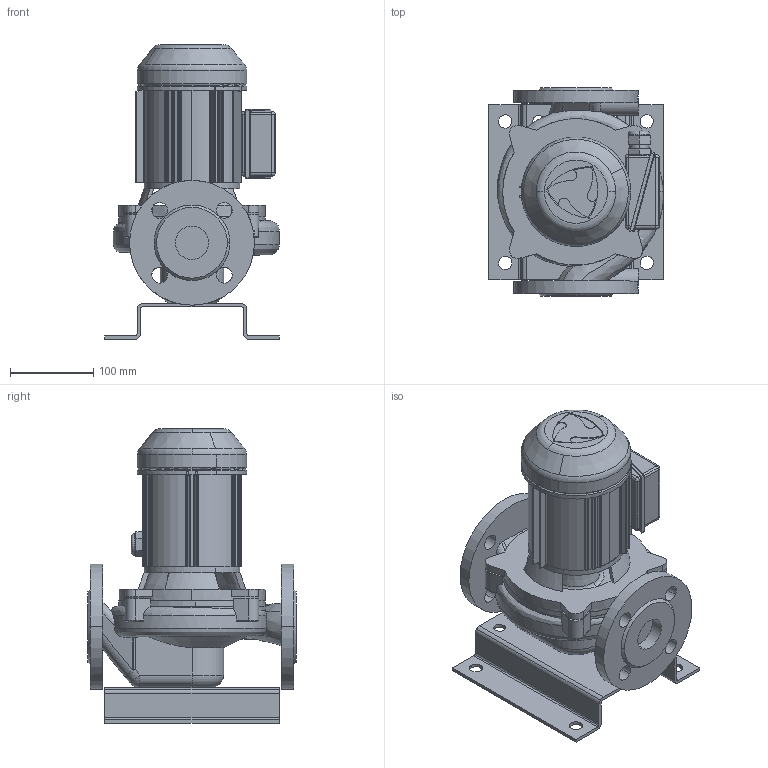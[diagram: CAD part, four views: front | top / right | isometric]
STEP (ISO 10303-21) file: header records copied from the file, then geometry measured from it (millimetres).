
FILE_DESCRIPTION(('STEP AP214'),'1');
FILE_NAME('export.stp','2018-05-29T09:08:09',(' '),(' '),'Spatial InterOp 3D',' ',' ');
FILE_SCHEMA(('AUTOMOTIVE_DESIGN { 1 0 10303 214 1 1 1 1 }'));
Length unit declared in the file: millimetre
Products named in the file (9): V_MOP752753762; RU_OP_752_753_762; TSUOJA_OP_7; KYTKOTELO_OP7_OKN8; W_L40A4200; V_EKN13OP752; V_TLAEAP3233L40A; V_PPL40A; V_JALKA35973
Assembly tree (8 placements, depth 3):
  W_L40A4200
    V_MOP752753762
      RU_OP_752_753_762
      TSUOJA_OP_7
      KYTKOTELO_OP7_OKN8
    V_EKN13OP752
    V_TLAEAP3233L40A
    V_PPL40A
    V_JALKA35973
Bounding box: 210 x 250 x 354 mm (x, y, z)
Volume: 3893487.1 mm3; surface area: 637399.1 mm2
Topology: 7 solids, 8 shells, 601 faces, 1644 edges, 1037 vertices
Faces by surface type: cylinder 327, plane 155, bspline 54, cone 25, torus 22, sphere 18
Entity records: 33869 total; most frequent: CARTESIAN_POINT 8605, DIRECTION 3245, ORIENTED_EDGE 3240, EDGE_CURVE 1620, STYLED_ITEM 1611, PRESENTATION_STYLE_ASSIGNMENT 1611, COLOUR_RGB 1611, AXIS2_PLACEMENT_3D 1318
